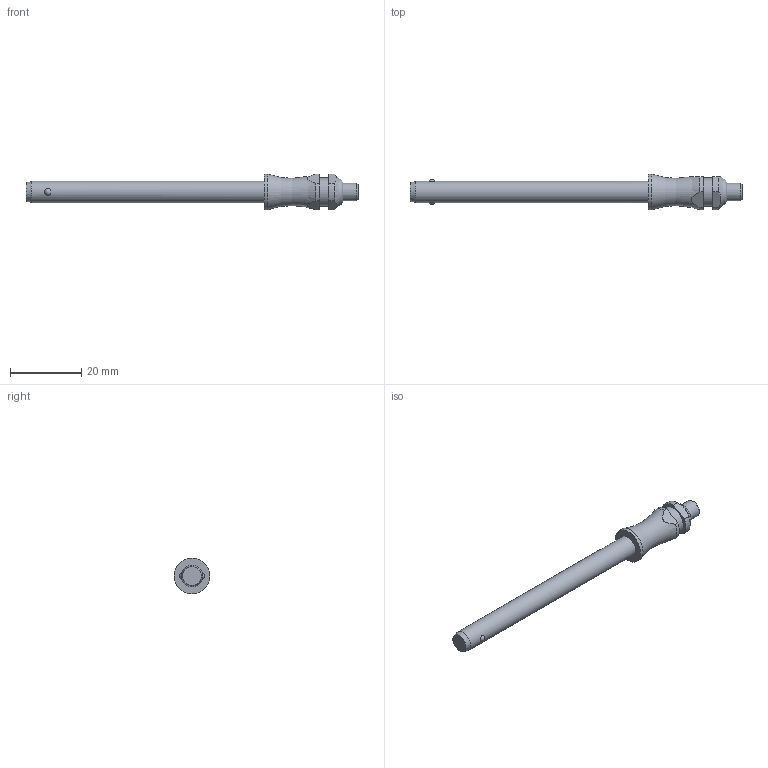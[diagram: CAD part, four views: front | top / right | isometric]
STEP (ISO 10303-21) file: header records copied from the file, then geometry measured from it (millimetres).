
FILE_DESCRIPTION( ( 'STEP AP203' ), '1' );
FILE_NAME( 'C:/Temp/Ganter_Step_05_03_2020/data/3_1/gn113_3/Stainless Steel-Ball lock pin GN 113.3-6-60 (deactivated).stp', '2020-03-12T08:18:20', ( 'License CC BY-ND 4.0' ), ( 'CADENAS' ), ' ', 'PARTsolutions', ' ' );
FILE_SCHEMA( ( 'CONFIG_CONTROL_DESIGN' ) );
Length unit declared in the file: millimetre
Products named in the file (1): _Stainless Steel-Ball lock pin GN 113.3-6-60 (deactivated)
Bounding box: 93.3 x 10 x 10 mm (x, y, z)
Volume: 3231.1 mm3; surface area: 2082.8 mm2
Topology: 1 solids, 1 shells, 29 faces, 61 edges, 40 vertices
Faces by surface type: plane 12, cylinder 10, cone 3, torus 2, sphere 2
Full cylindrical faces by diameter (mm): 5 x1, 6 x1, 7.9 x1, 10 x1
Entity records: 918 total; most frequent: CARTESIAN_POINT 288, DIRECTION 126, ORIENTED_EDGE 100, AXIS2_PLACEMENT_3D 54, EDGE_CURVE 50, EDGE_LOOP 44, VERTEX_POINT 38, FACE_OUTER_BOUND 35
